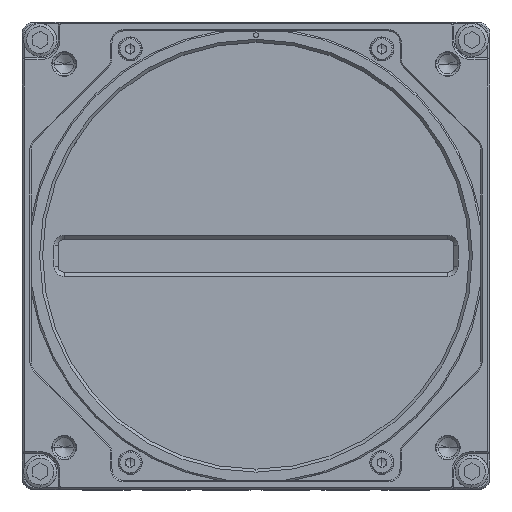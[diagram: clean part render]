
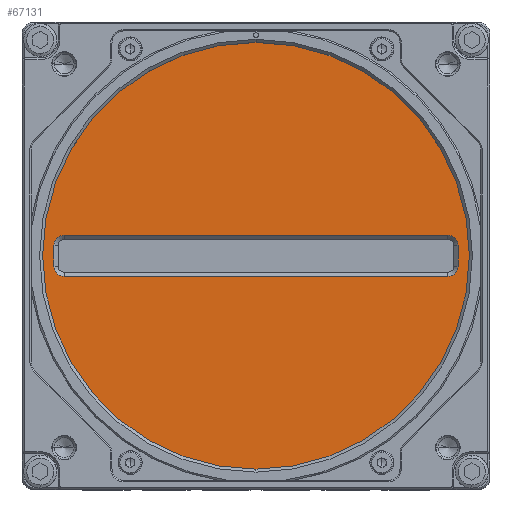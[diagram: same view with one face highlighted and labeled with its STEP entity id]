
A CAD part, top view. The second image highlights one B-rep face of the part: STEP entity #67131.
In plain terms, the highlighted planar face has unit normal (0, 0, 1).
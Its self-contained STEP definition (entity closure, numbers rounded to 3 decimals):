
#15134=CARTESIAN_POINT('',(0.,0.,39.088));
#15135=DIRECTION('',(0.,0.,-1.));
#15136=DIRECTION('',(0.,-1.,0.));
#15137=AXIS2_PLACEMENT_3D('',#15134,#15135,#15136);
#15139=CARTESIAN_POINT('',(0.,0.,39.088));
#15140=DIRECTION('',(0.,0.,-1.));
#15141=DIRECTION('',(0.,1.,0.));
#15142=AXIS2_PLACEMENT_3D('',#15139,#15140,#15141);
#15144=CARTESIAN_POINT('',(32.,-1.75,39.088));
#15145=DIRECTION('',(0.,0.,1.));
#15146=DIRECTION('',(0.,-1.,0.));
#15147=AXIS2_PLACEMENT_3D('',#15144,#15145,#15146);
#15149=CARTESIAN_POINT('',(32.,1.75,39.088));
#15150=DIRECTION('',(0.,0.,1.));
#15151=DIRECTION('',(1.,0.,0.));
#15152=AXIS2_PLACEMENT_3D('',#15149,#15150,#15151);
#15154=CARTESIAN_POINT('',(-32.,1.75,39.088));
#15155=DIRECTION('',(0.,0.,1.));
#15156=DIRECTION('',(0.,1.,0.));
#15157=AXIS2_PLACEMENT_3D('',#15154,#15155,#15156);
#15159=CARTESIAN_POINT('',(-32.,-1.75,39.088));
#15160=DIRECTION('',(0.,0.,1.));
#15161=DIRECTION('',(-1.,0.,0.));
#15162=AXIS2_PLACEMENT_3D('',#15159,#15160,#15161);
#15177=DIRECTION('',(-1.,0.,0.));
#15178=VECTOR('',#15177,64.);
#15179=CARTESIAN_POINT('',(32.,-3.45,
39.088));
#15180=LINE('',#15179,#15178);
#15198=DIRECTION('',(0.,1.,0.));
#15199=VECTOR('',#15198,3.5);
#15200=CARTESIAN_POINT('',(-33.7,-1.75,
39.088));
#15201=LINE('',#15200,#15199);
#15219=DIRECTION('',(1.,0.,0.));
#15220=VECTOR('',#15219,64.);
#15221=CARTESIAN_POINT('',(-32.,3.45,
39.088));
#15222=LINE('',#15221,#15220);
#15240=DIRECTION('',(0.,-1.,0.));
#15241=VECTOR('',#15240,3.5);
#15242=CARTESIAN_POINT('',(33.7,1.75,39.088));
#15243=LINE('',#15242,#15241);
#36719=CARTESIAN_POINT('',(0.,36.35,39.088));
#36720=VERTEX_POINT('',#36719);
#36721=CARTESIAN_POINT('',(0.,-36.35,39.088));
#36722=VERTEX_POINT('',#36721);
#36723=CARTESIAN_POINT('',(32.,-3.45,
39.088));
#36724=CARTESIAN_POINT('',(33.7,-1.75,
39.088));
#36725=VERTEX_POINT('',#36723);
#36726=VERTEX_POINT('',#36724);
#36727=CARTESIAN_POINT('',(33.7,1.75,39.088));
#36728=VERTEX_POINT('',#36727);
#36729=CARTESIAN_POINT('',(32.,3.45,39.088));
#36730=VERTEX_POINT('',#36729);
#36731=CARTESIAN_POINT('',(-32.,3.45,
39.088));
#36732=VERTEX_POINT('',#36731);
#36733=CARTESIAN_POINT('',(-33.7,1.75,
39.088));
#36734=VERTEX_POINT('',#36733);
#36735=CARTESIAN_POINT('',(-33.7,-1.75,
39.088));
#36736=VERTEX_POINT('',#36735);
#36737=CARTESIAN_POINT('',(-32.,-3.45,
39.088));
#36738=VERTEX_POINT('',#36737);
#67104=CARTESIAN_POINT('',(0.,0.,39.088));
#67105=DIRECTION('',(0.,0.,1.));
#67106=DIRECTION('',(0.,-1.,0.));
#67107=AXIS2_PLACEMENT_3D('',#67104,#67105,#67106);
#67108=PLANE('',#67107);
#67109=ORIENTED_EDGE('',*,*,#67090,.T.);
#67110=ORIENTED_EDGE('',*,*,#67072,.T.);
#67111=EDGE_LOOP('',(#67109,#67110));
#67112=FACE_OUTER_BOUND('',#67111,.F.);
#67114=ORIENTED_EDGE('',*,*,#67113,.T.);
#67116=ORIENTED_EDGE('',*,*,#67115,.F.);
#67118=ORIENTED_EDGE('',*,*,#67117,.T.);
#67120=ORIENTED_EDGE('',*,*,#67119,.F.);
#67122=ORIENTED_EDGE('',*,*,#67121,.T.);
#67124=ORIENTED_EDGE('',*,*,#67123,.F.);
#67126=ORIENTED_EDGE('',*,*,#67125,.T.);
#67128=ORIENTED_EDGE('',*,*,#67127,.F.);
#67129=EDGE_LOOP('',(#67114,#67116,#67118,#67120,#67122,#67124,#67126,#67128));
#67130=FACE_BOUND('',#67129,.F.);
#15138=CIRCLE('',#15137,36.35);
#15143=CIRCLE('',#15142,36.35);
#15148=CIRCLE('',#15147,1.7);
#15153=CIRCLE('',#15152,1.7);
#15158=CIRCLE('',#15157,1.7);
#15163=CIRCLE('',#15162,1.7);
#67072=EDGE_CURVE('',#36720,#36722,#15143,.T.);
#67090=EDGE_CURVE('',#36722,#36720,#15138,.T.);
#67113=EDGE_CURVE('',#36725,#36726,#15148,.T.);
#67115=EDGE_CURVE('',#36728,#36726,#15243,.T.);
#67117=EDGE_CURVE('',#36728,#36730,#15153,.T.);
#67119=EDGE_CURVE('',#36732,#36730,#15222,.T.);
#67121=EDGE_CURVE('',#36732,#36734,#15158,.T.);
#67123=EDGE_CURVE('',#36736,#36734,#15201,.T.);
#67125=EDGE_CURVE('',#36736,#36738,#15163,.T.);
#67127=EDGE_CURVE('',#36725,#36738,#15180,.T.);
#67131=ADVANCED_FACE('',(#67112,#67130),#67108,.T.);
